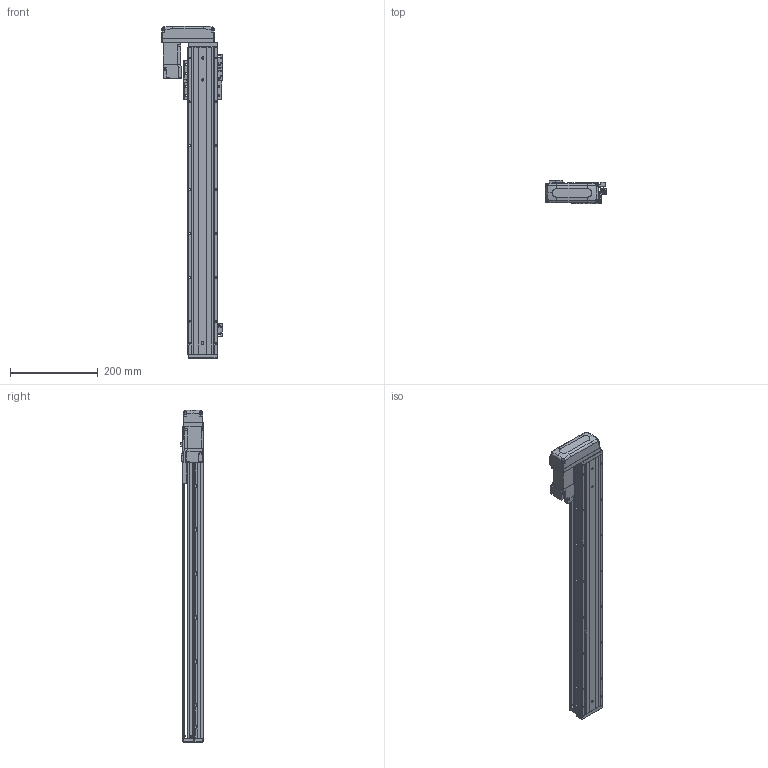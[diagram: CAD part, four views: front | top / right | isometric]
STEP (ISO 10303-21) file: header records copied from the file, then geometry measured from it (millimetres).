
FILE_DESCRIPTION (( 'STEP AP203' ), '1' );
FILE_NAME ('KTHAL60-550-BR-M10-C4L.step', '2022-03-19T08:44:59', ( '微软用户' ), ( '微软中国' ), 'SwSTEP 2.0', 'SolidWorks 2020', '' );
FILE_SCHEMA (( 'CONFIG_CONTROL_DESIGN' ));
Length unit declared in the file: millimetre
Products named in the file (18): CTHA60-021; CTHA60-033; KTHA60-004; GBT 70.1-M4×16; GBT 70.1-M3×15; KTHA60-005; GBT77-2000M3-3; KTHAL60-550-BR-M10-C4L; GB¨uT 70.2-M3¡Á5_M3¡Á6; GBT 70.1-M3℅6; GBT 70.3-M3℅6; CTHA60-016; EE_SX911P_R; HG-KR13（三菱）; KTHA60-001_700; CTHA60-017; CTHA60-015-2_CTHA60-015-2; KTHLA60-002
Assembly tree (51 placements, depth 2):
  KTHAL60-550-BR-M10-C4L
    KTHA60-001_700
    KTHLA60-002
    KTHA60-004
    KTHA60-005
    GB¨uT 70.2-M3¡Á5_M3¡Á6  x5
    GBT 70.3-M3℅6  x4
    EE_SX911P_R  x3
    CTHA60-017  x3
    CTHA60-021  x2
    GBT 70.1-M4×16  x10
    GBT77-2000M3-3  x6
    GBT 70.1-M3℅6  x6
    CTHA60-016
    HG-KR13（三菱）
    CTHA60-015-2_CTHA60-015-2
    CTHA60-033
    GBT 70.1-M3×15  x4
Bounding box: 137.82 x 52.3 x 757 mm (x, y, z)
Volume: 1616142.4 mm3; surface area: 399440.5 mm2
Topology: 54 solids, 54 shells, 2315 faces, 5499 edges, 3377 vertices
Faces by surface type: plane 1324, cylinder 565, cone 288, torus 98, bspline 26, sphere 14
Entity records: 40639 total; most frequent: CARTESIAN_POINT 7672, DIRECTION 6353, ORIENTED_EDGE 6142, EDGE_CURVE 3071, AXIS2_PLACEMENT_3D 2125, LINE 2103, VECTOR 2103, VERTEX_POINT 1926
